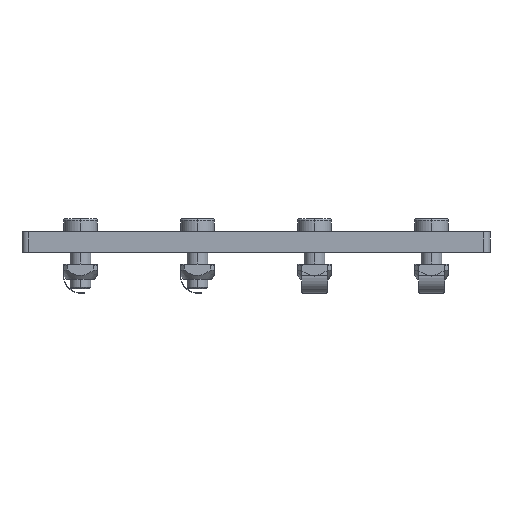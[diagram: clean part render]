
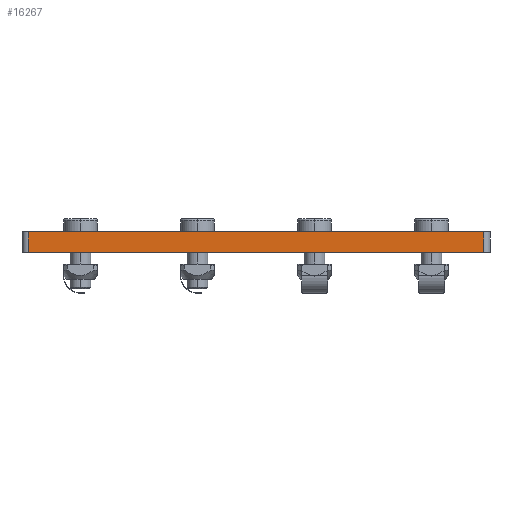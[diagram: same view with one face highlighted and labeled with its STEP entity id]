
A CAD part, left-side view. The second image highlights one B-rep face of the part: STEP entity #16267.
In plain terms, the highlighted planar face has unit normal (-1, 0, 0).
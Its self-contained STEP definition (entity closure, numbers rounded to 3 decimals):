
#401 = CARTESIAN_POINT ( 'NONE',  ( 569.538, 786.613, 1261.183 ) ) ;
#1975 = ORIENTED_EDGE ( 'NONE', *, *, #8672, .T. ) ;
#2189 = CARTESIAN_POINT ( 'NONE',  ( 569.538, 786.613, 1269.183 ) ) ;
#3363 = CARTESIAN_POINT ( 'NONE',  ( 569.538, 961.613, 1269.183 ) ) ;
#5344 = VERTEX_POINT ( 'NONE', #401 ) ;
#5632 = CARTESIAN_POINT ( 'NONE',  ( 569.538, 786.613, 1269.183 ) ) ;
#6639 = VECTOR ( 'NONE', #17931, 1000. ) ;
#7148 = EDGE_CURVE ( 'NONE', #15090, #15658, #33814, .T. ) ;
#8104 = VERTEX_POINT ( 'NONE', #23785 ) ;
#8573 = DIRECTION ( 'NONE',  ( 0., 0., -1. ) ) ;
#8636 = DIRECTION ( 'NONE',  ( 0., 1., 0. ) ) ;
#8672 = EDGE_CURVE ( 'NONE', #15090, #8104, #19274, .T. ) ;
#8955 = EDGE_LOOP ( 'NONE', ( #15858, #18635, #17284, #1975 ) ) ;
#9519 = CARTESIAN_POINT ( 'NONE',  ( 569.538, 874.113, 1261.183 ) ) ;
#9806 = CARTESIAN_POINT ( 'NONE',  ( 569.538, 874.113, 1269.183 ) ) ;
#10463 = CARTESIAN_POINT ( 'NONE',  ( 569.538, 961.613, 1269.183 ) ) ;
#11127 = PLANE ( 'NONE',  #14057 ) ;
#14057 = AXIS2_PLACEMENT_3D ( 'NONE', #24934, #16867, #8636 ) ;
#14382 = VECTOR ( 'NONE', #34332, 1000. ) ;
#15090 = VERTEX_POINT ( 'NONE', #10463 ) ;
#15658 = VERTEX_POINT ( 'NONE', #5632 ) ;
#15858 = ORIENTED_EDGE ( 'NONE', *, *, #21624, .T. ) ;
#16267 = ADVANCED_FACE ( 'NONE', ( #24764 ), #11127, .F. ) ;
#16867 = DIRECTION ( 'NONE',  ( 1., 0., 0. ) ) ;
#17284 = ORIENTED_EDGE ( 'NONE', *, *, #7148, .F. ) ;
#17931 = DIRECTION ( 'NONE',  ( 0., -1., 0. ) ) ;
#18635 = ORIENTED_EDGE ( 'NONE', *, *, #23308, .T. ) ;
#19013 = VECTOR ( 'NONE', #8573, 1000. ) ;
#19274 = LINE ( 'NONE', #3363, #19013 ) ;
#21624 = EDGE_CURVE ( 'NONE', #8104, #5344, #33873, .T. ) ;
#23308 = EDGE_CURVE ( 'NONE', #5344, #15658, #23678, .T. ) ;
#23678 = LINE ( 'NONE', #2189, #30170 ) ;
#23785 = CARTESIAN_POINT ( 'NONE',  ( 569.538, 961.613, 1261.183 ) ) ;
#24764 = FACE_OUTER_BOUND ( 'NONE', #8955, .T. ) ;
#24934 = CARTESIAN_POINT ( 'NONE',  ( 569.538, 874.113, 1269.183 ) ) ;
#30170 = VECTOR ( 'NONE', #31774, 1000. ) ;
#31774 = DIRECTION ( 'NONE',  ( 0., 0., 1. ) ) ;
#33814 = LINE ( 'NONE', #9806, #14382 ) ;
#33873 = LINE ( 'NONE', #9519, #6639 ) ;
#34332 = DIRECTION ( 'NONE',  ( 0., -1., 0. ) ) ;
